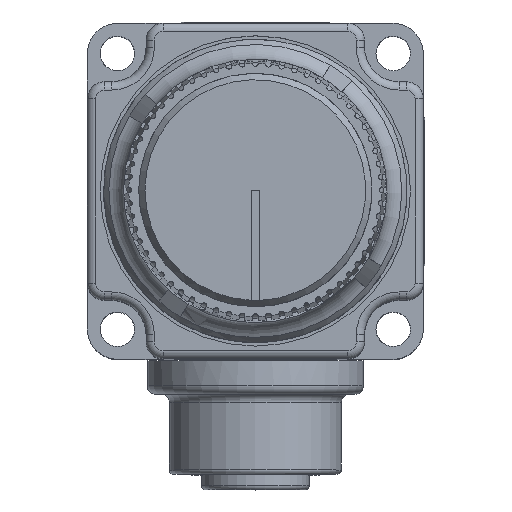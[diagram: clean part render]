
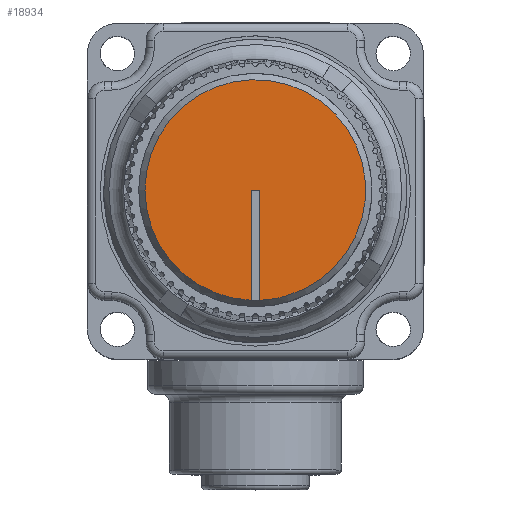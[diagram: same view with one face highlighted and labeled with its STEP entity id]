
A CAD part, top view. The second image highlights one B-rep face of the part: STEP entity #18934.
In plain terms, the highlighted planar face has unit normal (0, 0, 1).
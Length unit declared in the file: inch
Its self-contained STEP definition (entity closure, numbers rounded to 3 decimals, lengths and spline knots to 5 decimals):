
#850=PLANE('',#20588);
#1598=FACE_OUTER_BOUND('',#2688,.T.);
#2688=EDGE_LOOP('',(#14035,#14036,#14037,#14038,#14039));
#3739=CIRCLE('',#20589,0.4);
#3740=CIRCLE('',#20590,0.4);
#5002=LINE('',#30378,#6390);
#5003=LINE('',#30384,#6391);
#5004=LINE('',#30385,#6392);
#6390=VECTOR('',#24297,0.3937);
#6391=VECTOR('',#24302,0.3937);
#6392=VECTOR('',#24303,0.3937);
#7945=VERTEX_POINT('',#30376);
#7946=VERTEX_POINT('',#30377);
#7947=VERTEX_POINT('',#30379);
#7948=VERTEX_POINT('',#30381);
#7949=VERTEX_POINT('',#30383);
#10142=EDGE_CURVE('',#7945,#7946,#5002,.T.);
#10143=EDGE_CURVE('',#7946,#7947,#3739,.T.);
#10144=EDGE_CURVE('',#7947,#7948,#3740,.T.);
#10145=EDGE_CURVE('',#7948,#7949,#5003,.T.);
#10146=EDGE_CURVE('',#7949,#7945,#5004,.T.);
#14035=ORIENTED_EDGE('',*,*,#10142,.T.);
#14036=ORIENTED_EDGE('',*,*,#10143,.T.);
#14037=ORIENTED_EDGE('',*,*,#10144,.T.);
#14038=ORIENTED_EDGE('',*,*,#10145,.T.);
#14039=ORIENTED_EDGE('',*,*,#10146,.T.);
#18934=ADVANCED_FACE('',(#1598),#850,.T.);
#20588=AXIS2_PLACEMENT_3D('',#30375,#24295,#24296);
#20589=AXIS2_PLACEMENT_3D('',#30380,#24298,#24299);
#20590=AXIS2_PLACEMENT_3D('',#30382,#24300,#24301);
#24295=DIRECTION('center_axis',(0.,0.,1.));
#24296=DIRECTION('ref_axis',(1.,0.,0.));
#24297=DIRECTION('',(0.,-1.,0.));
#24298=DIRECTION('center_axis',(0.,0.,
1.));
#24299=DIRECTION('ref_axis',(0.325,0.946,0.));
#24300=DIRECTION('center_axis',(0.,0.,
1.));
#24301=DIRECTION('ref_axis',(0.325,0.946,0.));
#24302=DIRECTION('',(0.,1.,0.));
#24303=DIRECTION('',(1.,0.,0.));
#30375=CARTESIAN_POINT('Origin',(-1.58575,0.42464,1.3424));
#30376=CARTESIAN_POINT('',(-1.57075,0.82475,1.3424));
#30377=CARTESIAN_POINT('',(-1.57075,0.42503,1.3424));
#30378=CARTESIAN_POINT('',(-1.57075,0.82475,1.3424));
#30379=CARTESIAN_POINT('',(-1.47157,0.44139,1.3424));
#30380=CARTESIAN_POINT('Origin',(-1.58575,0.82475,1.3424));
#30381=CARTESIAN_POINT('',(-1.60075,0.42503,1.3424));
#30382=CARTESIAN_POINT('Origin',(-1.58575,0.82475,1.3424));
#30383=CARTESIAN_POINT('',(-1.60075,0.82475,1.3424));
#30384=CARTESIAN_POINT('',(-1.60075,0.42503,1.3424));
#30385=CARTESIAN_POINT('',(-1.60075,0.82475,1.3424));
